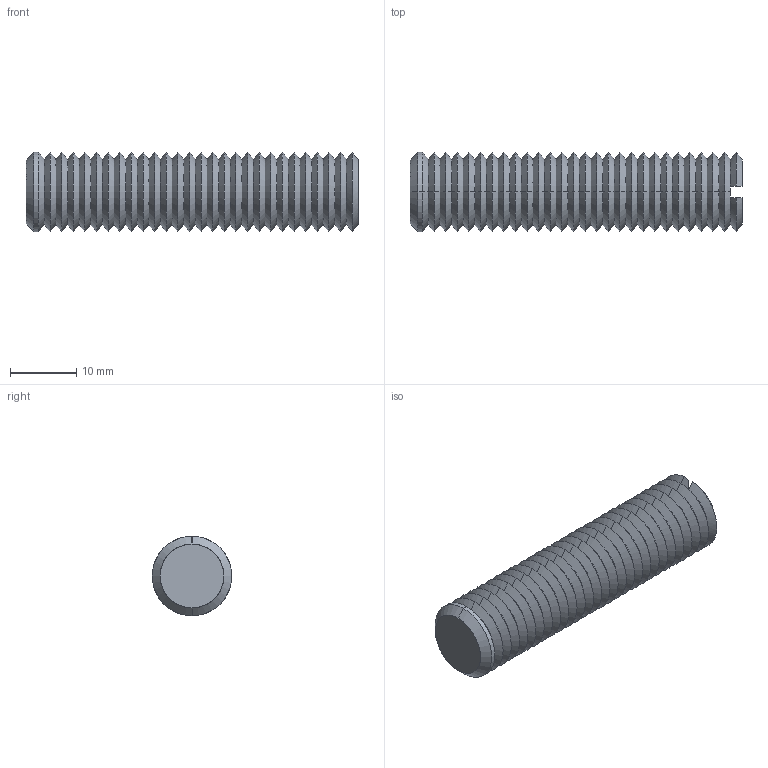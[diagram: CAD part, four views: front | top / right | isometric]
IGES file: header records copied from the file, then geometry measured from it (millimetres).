
Start section: SolidWorks IGES file using analytic representation for surfaces
Global section: file name: C:\Documents and Settings\IANO\Desktop\Temp File\Process pending\EXISTING\34300_v2\34300_v2_20170622_IGES\34300.W0124.igs; native system: SolidWorks 2009; preprocessor: SolidWorks 2009; author: IANO; date: 170622.094221; units: millimetre
Bounding box: 50 x 12 x 12 mm (x, y, z)
Surface area: 2897.4 mm2 (no closed solid volume)
Topology: 0 solids, 0 shells, 120 faces, 544 edges, 544 vertices
Faces by surface type: revolution 114, bspline 6
